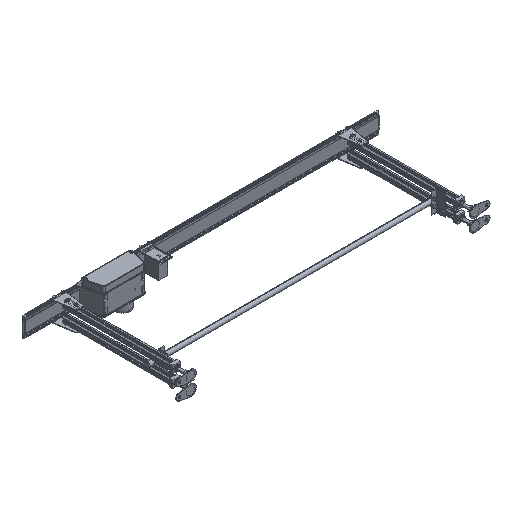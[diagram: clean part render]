
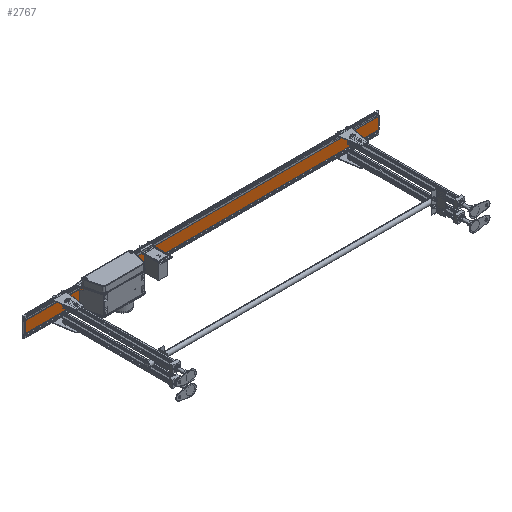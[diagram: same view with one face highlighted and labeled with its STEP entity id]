
A CAD part, isometric view. The second image highlights one B-rep face of the part: STEP entity #2767.
In plain terms, the highlighted planar face has unit normal (0, -1, 0).
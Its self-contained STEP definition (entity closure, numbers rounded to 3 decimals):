
#2767=ADVANCED_FACE('',(#13221),#13220,.F.);
#13220=PLANE('',#30324);
#13221=FACE_OUTER_BOUND('',#30325,.T.);
#30321=CARTESIAN_POINT('',(2004.,-12.2,-39.));
#30322=DIRECTION('',(0.,1.,0.));
#30323=DIRECTION('',(-1.,0.,0.));
#30324=AXIS2_PLACEMENT_3D('',#30321,#30322,#30323);
#30325=EDGE_LOOP('',(#43003,#43004,#43005,#43006));
#43003=ORIENTED_EDGE('',*,*,#51015,.T.);
#43004=ORIENTED_EDGE('',*,*,#51016,.F.);
#43005=ORIENTED_EDGE('',*,*,#51017,.F.);
#43006=ORIENTED_EDGE('',*,*,#51018,.T.);
#51015=EDGE_CURVE('',#69652,#69653,#69654,.T.);
#51016=EDGE_CURVE('',#69660,#69653,#69661,.T.);
#51017=EDGE_CURVE('',#69667,#69660,#69668,.T.);
#51018=EDGE_CURVE('',#69667,#69652,#69674,.T.);
#69652=VERTEX_POINT('',#97803);
#69653=VERTEX_POINT('',#97804);
#69654=LINE('',#97805,#97806);
#69660=VERTEX_POINT('',#97808);
#69661=LINE('',#97809,#97810);
#69667=VERTEX_POINT('',#97812);
#69668=LINE('',#97813,#97814);
#69674=LINE('',#97816,#97817);
#97803=CARTESIAN_POINT('',(6.,-12.2,-32.5));
#97804=CARTESIAN_POINT('',(1994.,-12.2,-32.5));
#97805=CARTESIAN_POINT('',(6.,-12.2,-32.5));
#97806=VECTOR('',#97807,1988.);
#97807=DIRECTION('',(1.,0.,0.));
#97808=CARTESIAN_POINT('',(1994.,-12.2,32.5));
#97809=CARTESIAN_POINT('',(1994.,-12.2,32.5));
#97810=VECTOR('',#97811,65.);
#97811=DIRECTION('',(0.,0.,-1.));
#97812=CARTESIAN_POINT('',(6.,-12.2,32.5));
#97813=CARTESIAN_POINT('',(6.,-12.2,32.5));
#97814=VECTOR('',#97815,1988.);
#97815=DIRECTION('',(1.,0.,0.));
#97816=CARTESIAN_POINT('',(6.,-12.2,32.5));
#97817=VECTOR('',#97818,65.);
#97818=DIRECTION('',(0.,0.,-1.));
